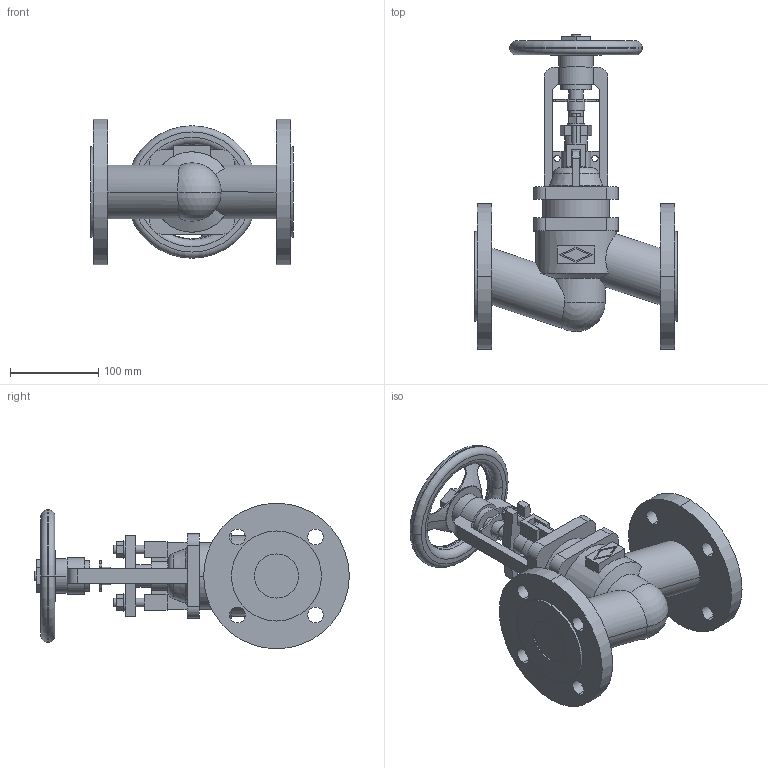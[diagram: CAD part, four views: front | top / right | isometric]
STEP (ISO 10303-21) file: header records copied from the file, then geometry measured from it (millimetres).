
FILE_DESCRIPTION(('OneSpaceDesigner STEP Export'),'2;1');
FILE_NAME('c000003740.stp','2009-06-15T13:04:04',(''),(''),'OneSpace Designer STEP processor for AP214 (Solid Model)','OneSpace Modeling 15.50B 03-Nov-2007 (C) CoCreate Software GmbH','');
FILE_SCHEMA(('AUTOMOTIVE_DESIGN { 1 0 10303 214 1 1 1 1 }'));
Length unit declared in the file: millimetre
Products named in the file (1): 1
Bounding box: 230 x 356.4 x 165 mm (x, y, z)
Volume: 2355365.3 mm3; surface area: 273731.9 mm2
Topology: 1 solids, 1 shells, 285 faces, 764 edges, 503 vertices
Faces by surface type: plane 140, cylinder 113, torus 18, cone 12, sphere 2
Entity records: 11390 total; most frequent: CARTESIAN_POINT 2301, ORIENTED_EDGE 1516, DIRECTION 1265, EDGE_CURVE 758, VERTEX_POINT 499, AXIS2_PLACEMENT_3D 431, VECTOR 403, LINE 403
